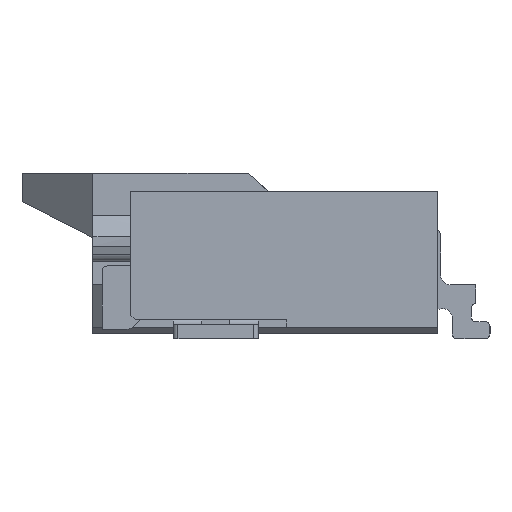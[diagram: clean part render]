
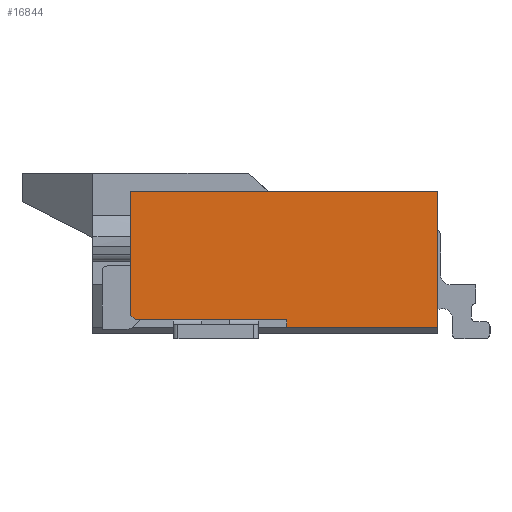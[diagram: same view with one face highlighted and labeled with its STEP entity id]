
A CAD part, left-side view. The second image highlights one B-rep face of the part: STEP entity #16844.
In plain terms, the highlighted planar face has unit normal (-1, 0, 0).
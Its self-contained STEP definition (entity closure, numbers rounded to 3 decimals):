
#890 = VERTEX_POINT ( 'NONE', #17860 ) ;
#998 = CARTESIAN_POINT ( 'NONE',  ( -7.35, -0.45, 0.15 ) ) ;
#1735 = PLANE ( 'NONE',  #23541 ) ;
#3087 = CARTESIAN_POINT ( 'NONE',  ( -7.35, -2.05, 0.07 ) ) ;
#3402 = DIRECTION ( 'NONE',  ( 0., 1., 0. ) ) ;
#3423 = CARTESIAN_POINT ( 'NONE',  ( -7.35, -0.4, 0.2 ) ) ;
#4735 = VERTEX_POINT ( 'NONE', #3423 ) ;
#4956 = VECTOR ( 'NONE', #25473, 1000. ) ;
#6486 = ORIENTED_EDGE ( 'NONE', *, *, #15043, .F. ) ;
#6953 = CARTESIAN_POINT ( 'NONE',  ( -7.35, -2.05, 0.07 ) ) ;
#7031 = VERTEX_POINT ( 'NONE', #10114 ) ;
#7500 = ORIENTED_EDGE ( 'NONE', *, *, #36682, .T. ) ;
#7638 = CARTESIAN_POINT ( 'NONE',  ( -7.35, -2.05, 0.15 ) ) ;
#7877 = EDGE_CURVE ( 'NONE', #14027, #10768, #11492, .T. ) ;
#7962 = DIRECTION ( 'NONE',  ( 0., 0., -1. ) ) ;
#9172 = CARTESIAN_POINT ( 'NONE',  ( -7.35, -0.45, 0.15 ) ) ;
#9940 = DIRECTION ( 'NONE',  ( -1., 0., 0. ) ) ;
#10008 = ORIENTED_EDGE ( 'NONE', *, *, #16322, .F. ) ;
#10114 = CARTESIAN_POINT ( 'NONE',  ( -7.35, -3.65, 1.51 ) ) ;
#10768 = VERTEX_POINT ( 'NONE', #7638 ) ;
#11313 = EDGE_LOOP ( 'NONE', ( #13967, #12363, #7500, #31621, #10008, #6486, #14311 ) ) ;
#11431 = CARTESIAN_POINT ( 'NONE',  ( -7.35, 0., 0.07 ) ) ;
#11492 = LINE ( 'NONE', #3087, #11625 ) ;
#11625 = VECTOR ( 'NONE', #19534, 1000. ) ;
#11627 = LINE ( 'NONE', #23044, #24334 ) ;
#12363 = ORIENTED_EDGE ( 'NONE', *, *, #15851, .F. ) ;
#13184 = CARTESIAN_POINT ( 'NONE',  ( -7.35, -3.65, 0. ) ) ;
#13557 = LINE ( 'NONE', #13184, #36689 ) ;
#13966 = CARTESIAN_POINT ( 'NONE',  ( -7.35, -0.4, 0. ) ) ;
#13967 = ORIENTED_EDGE ( 'NONE', *, *, #32424, .F. ) ;
#14027 = VERTEX_POINT ( 'NONE', #6953 ) ;
#14311 = ORIENTED_EDGE ( 'NONE', *, *, #7877, .F. ) ;
#14352 = CARTESIAN_POINT ( 'NONE',  ( -7.35, 0., 0.15 ) ) ;
#15043 = EDGE_CURVE ( 'NONE', #10768, #35949, #28586, .T. ) ;
#15727 = DIRECTION ( 'NONE',  ( 0., 1., 0. ) ) ;
#15851 = EDGE_CURVE ( 'NONE', #7031, #890, #13557, .T. ) ;
#16322 = EDGE_CURVE ( 'NONE', #35949, #4735, #34834, .T. ) ;
#16671 = LINE ( 'NONE', #11431, #4956 ) ;
#16844 = ADVANCED_FACE ( 'NONE', ( #24167 ), #1735, .T. ) ;
#17860 = CARTESIAN_POINT ( 'NONE',  ( -7.35, -3.65, 0.07 ) ) ;
#19534 = DIRECTION ( 'NONE',  ( 0., 0., 1. ) ) ;
#20575 = DIRECTION ( 'NONE',  ( 0., 0.707, 0.707 ) ) ;
#21794 = EDGE_CURVE ( 'NONE', #4735, #25685, #28574, .T. ) ;
#22925 = VECTOR ( 'NONE', #23504, 1000. ) ;
#23044 = CARTESIAN_POINT ( 'NONE',  ( -7.35, -0.4, 1.51 ) ) ;
#23504 = DIRECTION ( 'NONE',  ( 0., 1., 0. ) ) ;
#23541 = AXIS2_PLACEMENT_3D ( 'NONE', #32426, #9940, #15727 ) ;
#24167 = FACE_OUTER_BOUND ( 'NONE', #11313, .T. ) ;
#24334 = VECTOR ( 'NONE', #3402, 1000. ) ;
#25473 = DIRECTION ( 'NONE',  ( 0., 1., 0. ) ) ;
#25685 = VERTEX_POINT ( 'NONE', #30496 ) ;
#25764 = DIRECTION ( 'NONE',  ( 0., 0., 1. ) ) ;
#28574 = LINE ( 'NONE', #13966, #33349 ) ;
#28586 = LINE ( 'NONE', #14352, #22925 ) ;
#30496 = CARTESIAN_POINT ( 'NONE',  ( -7.35, -0.4, 1.51 ) ) ;
#31621 = ORIENTED_EDGE ( 'NONE', *, *, #21794, .F. ) ;
#31909 = VECTOR ( 'NONE', #20575, 1000. ) ;
#32424 = EDGE_CURVE ( 'NONE', #890, #14027, #16671, .T. ) ;
#32426 = CARTESIAN_POINT ( 'NONE',  ( -7.35, 0., 0. ) ) ;
#33349 = VECTOR ( 'NONE', #25764, 1000. ) ;
#34834 = LINE ( 'NONE', #9172, #31909 ) ;
#35949 = VERTEX_POINT ( 'NONE', #998 ) ;
#36682 = EDGE_CURVE ( 'NONE', #7031, #25685, #11627, .T. ) ;
#36689 = VECTOR ( 'NONE', #7962, 1000. ) ;
